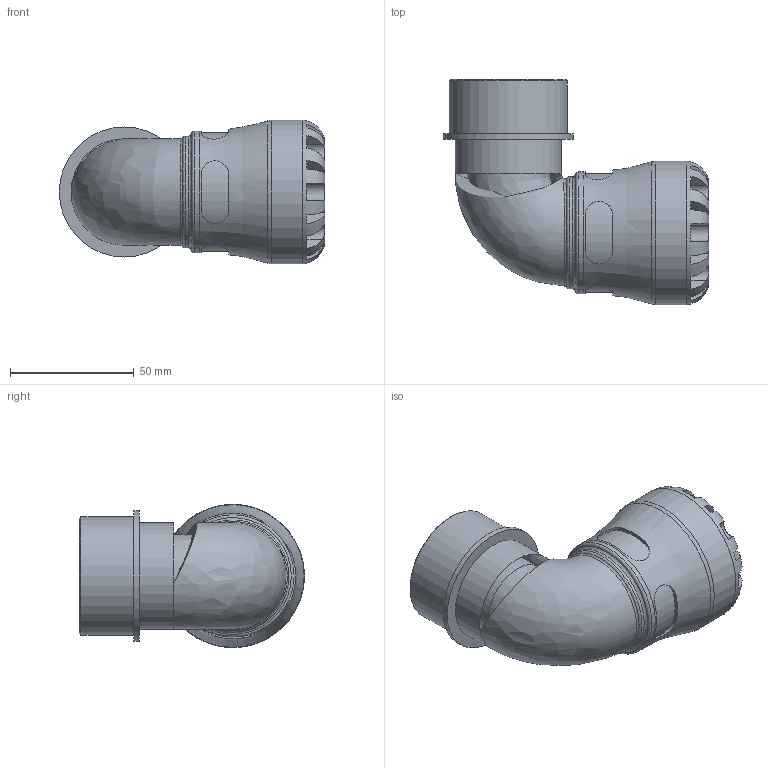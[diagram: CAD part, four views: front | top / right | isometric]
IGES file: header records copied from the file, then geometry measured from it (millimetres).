
Global section: file name: 108500032015_198500032015.ipt; native system: Autodesk Inventor 2015; preprocessor: unknown; author: KIM; date: 20191029.101507; units: millimetre
Bounding box: 107.29 x 91 x 58 mm (x, y, z)
Volume: 130098 mm3; surface area: 39150.7 mm2
Topology: 1 solids, 1 shells, 109 faces, 281 edges, 179 vertices
Faces by surface type: plane 61, revolution 26, cylinder 18, bspline 3, cone 1
Full cylindrical faces by diameter (mm): 43.023 x1, 45.24 x1, 47.803 x1, 49.3 x1, 52.583 x1, 58 x1
